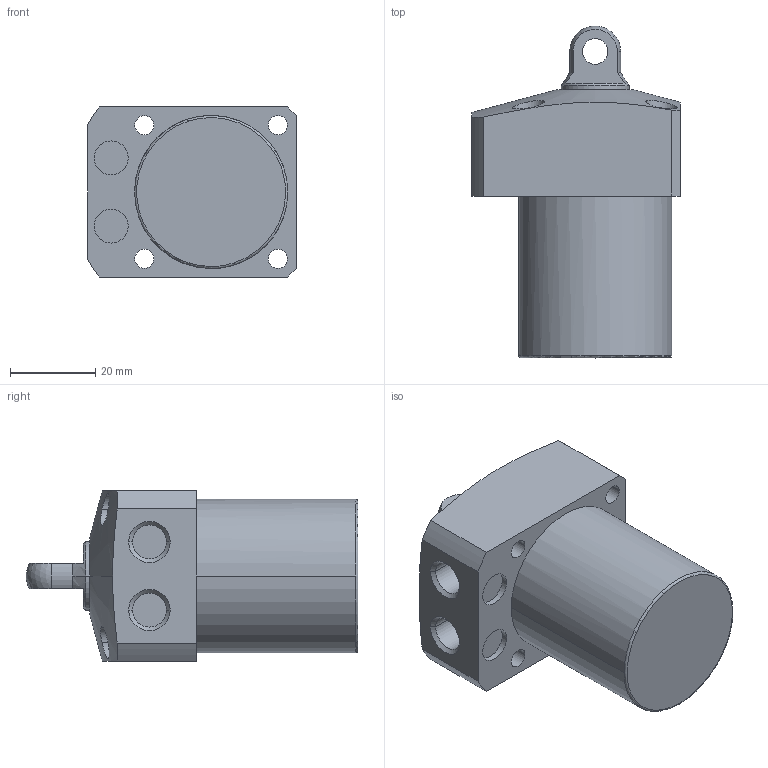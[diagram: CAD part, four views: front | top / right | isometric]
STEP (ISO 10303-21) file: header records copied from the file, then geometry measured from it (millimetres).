
FILE_DESCRIPTION((' '),'2;1');
FILE_NAME( 'TLL-036CP-030.STEP.stp', '2025-10-24T16:39:40', (' '), ('--- Datakit www.datakit.com---'), ' Datakit CrossCadWare V2024.1 Dec 21 2023', 'Mastercam 2025', ' ');
FILE_SCHEMA(('AUTOMOTIVE_DESIGN { 1 0 10303 214 1 1 1 1 }'));
Length unit declared in the file: millimetre
Products named in the file (1): TLL-036CP-030
Bounding box: 49 x 77.99 x 40 mm (x, y, z)
Volume: 80068 mm3; surface area: 14345.5 mm2
Topology: 1 solids, 1 shells, 67 faces, 202 edges, 145 vertices
Faces by surface type: cylinder 34, plane 21, cone 8, sphere 2, torus 2
Entity records: 4728 total; most frequent: CARTESIAN_POINT 2793, DIRECTION 418, ORIENTED_EDGE 400, EDGE_CURVE 200, AXIS2_PLACEMENT_3D 180, VERTEX_POINT 145, CIRCLE 112, EDGE_LOOP 87
